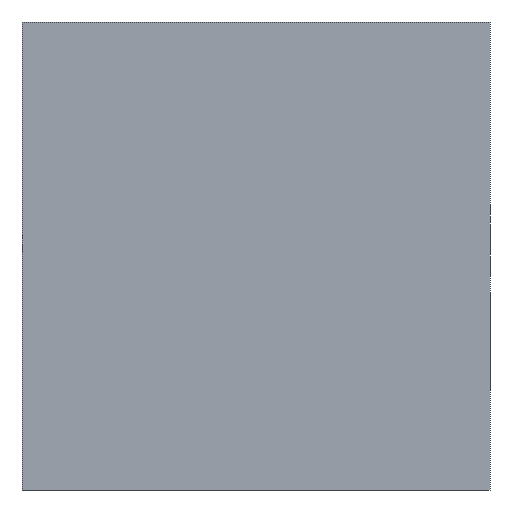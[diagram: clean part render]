
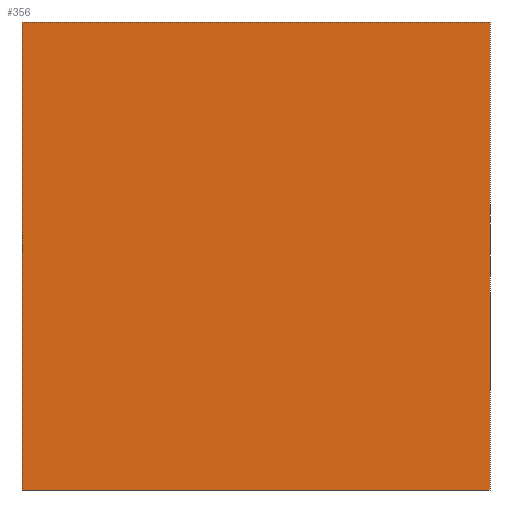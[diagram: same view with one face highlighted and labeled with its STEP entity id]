
A CAD part, front view. The second image highlights one B-rep face of the part: STEP entity #356.
In plain terms, the highlighted planar face has unit normal (0, -1, 0).
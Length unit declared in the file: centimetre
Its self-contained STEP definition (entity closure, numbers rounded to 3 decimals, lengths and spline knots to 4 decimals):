
#23 = PLANE ( 'NONE',  #529 ) ;
#74 = DIRECTION ( 'NONE',  ( 0., 0., 1. ) ) ;
#79 = EDGE_LOOP ( 'NONE', ( #102, #645, #259, #319 ) ) ;
#102 = ORIENTED_EDGE ( 'NONE', *, *, #131, .T. ) ;
#122 = CARTESIAN_POINT ( 'NONE',  ( 1000., 0., 1000. ) ) ;
#123 = EDGE_CURVE ( 'NONE', #507, #759, #679, .T. ) ;
#131 = EDGE_CURVE ( 'NONE', #273, #759, #487, .T. ) ;
#134 = DIRECTION ( 'NONE',  ( 0., 1., 0. ) ) ;
#143 = CARTESIAN_POINT ( 'NONE',  ( 1000., 0., 1000. ) ) ;
#188 = DIRECTION ( 'NONE',  ( 0., 0., -1. ) ) ;
#248 = CARTESIAN_POINT ( 'NONE',  ( 0., 0., 0. ) ) ;
#259 = ORIENTED_EDGE ( 'NONE', *, *, #328, .F. ) ;
#266 = CARTESIAN_POINT ( 'NONE',  ( 0., 0., 1000. ) ) ;
#270 = CARTESIAN_POINT ( 'NONE',  ( 0., 0., 1000. ) ) ;
#273 = VERTEX_POINT ( 'NONE', #459 ) ;
#296 = VECTOR ( 'NONE', #389, 100. ) ;
#317 = LINE ( 'NONE', #486, #522 ) ;
#319 = ORIENTED_EDGE ( 'NONE', *, *, #441, .T. ) ;
#328 = EDGE_CURVE ( 'NONE', #657, #507, #580, .T. ) ;
#356 = ADVANCED_FACE ( 'NONE', ( #576 ), #23, .F. ) ;
#360 = CARTESIAN_POINT ( 'NONE',  ( 1000., 0., 0. ) ) ;
#369 = DIRECTION ( 'NONE',  ( 0., 0., -1. ) ) ;
#389 = DIRECTION ( 'NONE',  ( 1., 0., 0. ) ) ;
#441 = EDGE_CURVE ( 'NONE', #657, #273, #317, .T. ) ;
#459 = CARTESIAN_POINT ( 'NONE',  ( 0., 0., 0. ) ) ;
#486 = CARTESIAN_POINT ( 'NONE',  ( 0., 0., 1000. ) ) ;
#487 = LINE ( 'NONE', #248, #634 ) ;
#507 = VERTEX_POINT ( 'NONE', #143 ) ;
#522 = VECTOR ( 'NONE', #369, 100. ) ;
#529 = AXIS2_PLACEMENT_3D ( 'NONE', #266, #134, #74 ) ;
#561 = DIRECTION ( 'NONE',  ( 1., 0., 0. ) ) ;
#570 = VECTOR ( 'NONE', #188, 100. ) ;
#576 = FACE_OUTER_BOUND ( 'NONE', #79, .T. ) ;
#580 = LINE ( 'NONE', #270, #296 ) ;
#634 = VECTOR ( 'NONE', #561, 100. ) ;
#645 = ORIENTED_EDGE ( 'NONE', *, *, #123, .F. ) ;
#656 = CARTESIAN_POINT ( 'NONE',  ( 0., 0., 1000. ) ) ;
#657 = VERTEX_POINT ( 'NONE', #656 ) ;
#679 = LINE ( 'NONE', #122, #570 ) ;
#759 = VERTEX_POINT ( 'NONE', #360 ) ;
